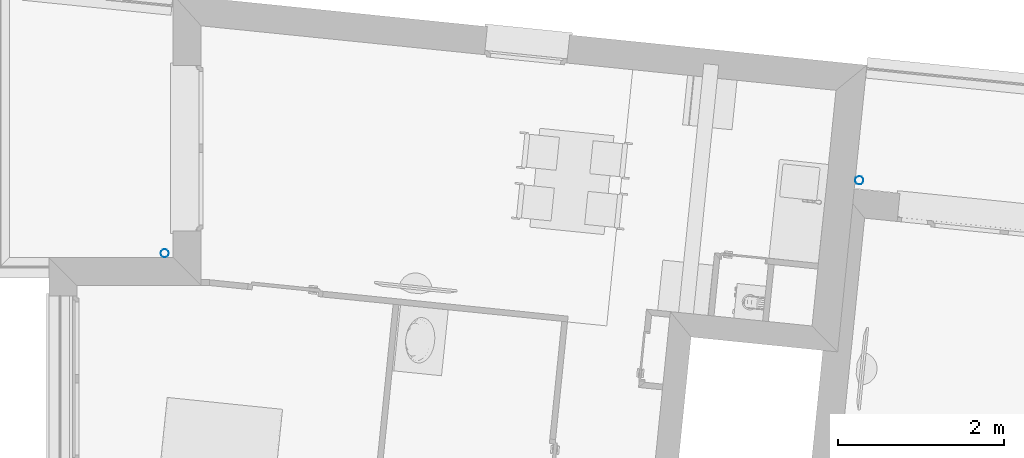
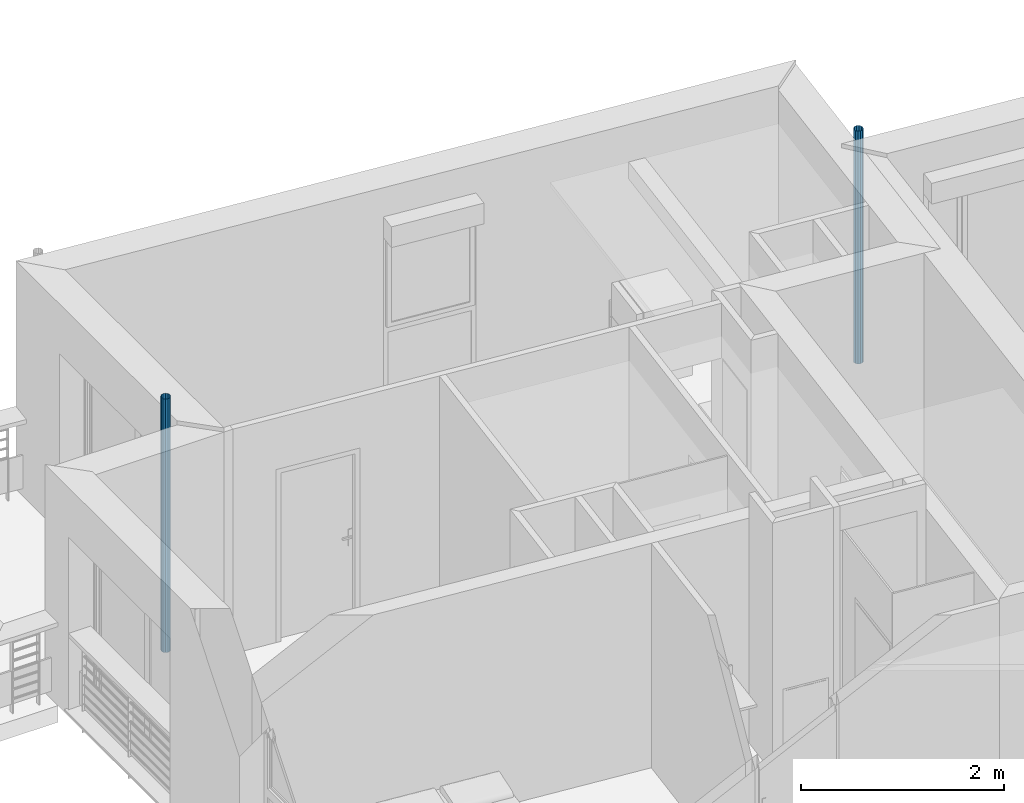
# One storey, part 82 of 164: 2 discrete accessories.
"""IFC2X3 building model written with IfcOpenShell, lengths in millimetres."""

from ifc_helpers import new_model, entity, si_unit, converted_unit, derived_unit, money_unit, direction, frame, origin_with_axes, place, context, subcontext, project, spatial, open_shell, surface_model, source, transform, mapped, type_object, element, save


model = new_model("IFC2X3")

# Units and contexts
model_context = context("Model", 3, precision=0.01, world=origin_with_axes(), true_north=direction((0.0, 1.0)))
body_context = subcontext(model_context, "Body", "Model", "MODEL_VIEW")
ifc_project = project(units=[si_unit("LENGTHUNIT", "METRE", prefix="MILLI"), si_unit("AREAUNIT", "SQUARE_METRE"), si_unit("VOLUMEUNIT", "CUBIC_METRE"), converted_unit("PLANEANGLEUNIT", "DEGREE", entity("IfcPlaneAngleMeasure", 0.0174532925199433), si_unit("PLANEANGLEUNIT", "RADIAN"), dimensions=[0, 0, 0, 0, 0, 0, 0]), money_unit("USD"), converted_unit("TIMEUNIT", "Year", entity("IfcTimeMeasure", 31557600.0), si_unit("TIMEUNIT", "SECOND"), dimensions=[0, 0, 1, 0, 0, 0, 0]), si_unit("MASSUNIT", "GRAM", prefix="KILO"), si_unit("THERMODYNAMICTEMPERATUREUNIT", "DEGREE_CELSIUS"), si_unit("LUMINOUSINTENSITYUNIT", "LUMEN"), si_unit("ENERGYUNIT", "JOULE", prefix="MEGA"), derived_unit("THERMALCONDUCTANCEUNIT", [(si_unit("POWERUNIT", "WATT"), 1), (si_unit("LENGTHUNIT", "METRE"), -1), (si_unit("THERMODYNAMICTEMPERATUREUNIT", "KELVIN"), -1)]), derived_unit("SPECIFICHEATCAPACITYUNIT", [(si_unit("ENERGYUNIT", "JOULE"), 1), (si_unit("MASSUNIT", "GRAM", prefix="KILO"), -1), (si_unit("THERMODYNAMICTEMPERATUREUNIT", "KELVIN"), -1)]), derived_unit("MASSDENSITYUNIT", [(si_unit("MASSUNIT", "GRAM", prefix="KILO"), 1), (si_unit("VOLUMEUNIT", "CUBIC_METRE"), -1)])], contexts=[model_context])

# Site, building, storey
site_placement = place(None, origin_with_axes())
site = spatial("IfcSite", under=ifc_project, at=site_placement, Name="Site", CompositionType="ELEMENT")
building_placement = place(site_placement, origin_with_axes())
building = spatial("IfcBuilding", under=site, at=building_placement, Name="Bâtiment", CompositionType="ELEMENT")
storey_placement = place(building_placement, frame((0.0, 0.0, 5750.0), z_axis=(0.0, 0.0, 1.0), x_axis=(1.0, 0.0, 0.0)))
storey = spatial("IfcBuildingStorey", under=building, at=storey_placement, Name="Etage1", CompositionType="ELEMENT", Elevation=5750.0)

# Discrete accessories
discrete_accessory_type = type_object("IfcDiscreteAccessoryType", Name="Tuyau descente 27")
shared_shape_1 = source(origin_with_axes(), body_context, "Body", "SurfaceModel", [
    surface_model("IfcShellBasedSurfaceModel", [(-50.0, 0.0, 3050.0), (-50.0, 0.0, 0.0), (-43.30127018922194, -25.0, 0.0), (-43.30127018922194, -25.0, 3050.0), (-43.30127018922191, 25.00000000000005, 3050.0), (-43.30127018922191, 25.00000000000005, 0.0), (-25.00000000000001, -43.30127018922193, 0.0), (-25.00000000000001, -43.30127018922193, 3050.0), (-24.99999999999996, 43.30127018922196, 3050.0), (-24.99999999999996, 43.30127018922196, 0.0), (0.0, -50.0, 0.0), (0.0, -50.0, 3050.0), (0.0, 50.0, 3050.0), (0.0, 50.0, 0.0), (24.99999999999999, -43.30127018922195, 0.0), (24.99999999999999, -43.30127018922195, 3050.0), (25.00000000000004, 43.30127018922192, 3050.0), (25.00000000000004, 43.30127018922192, 0.0), (43.30127018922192, -25.00000000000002, 0.0), (43.30127018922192, -25.00000000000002, 3050.0), (43.30127018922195, 24.99999999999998, 3050.0), (43.30127018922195, 24.99999999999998, 0.0), (50.0, 0.0, 0.0), (50.0, 0.0, 3050.0)], [open_shell([[[0, 1, 2, 3]], [[4, 5, 1, 0]], [[3, 2, 6, 7]], [[8, 9, 5, 4]], [[7, 6, 10, 11]], [[12, 13, 9, 8]], [[11, 10, 14, 15]], [[16, 17, 13, 12]], [[15, 14, 18, 19]], [[20, 21, 17, 16]], [[19, 18, 22, 23]], [[23, 22, 21, 20]]])]),
])
discrete_accessory_1_placement = place(storey_placement, frame((2218034.158908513, -607117.3879007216, 0.0), z_axis=(0.0, 0.0, 1.0), x_axis=(-1.0, 0.0, 0.0)))
element("IfcDiscreteAccessory", 1, at=discrete_accessory_1_placement, inside=storey, type_object=discrete_accessory_type, Name="Obj.-318", context=body_context, shape_type="MappedRepresentation", body=[
    mapped(shared_shape_1, transform((0.0, 0.0, 0.0))),
])
shared_shape_2 = source(origin_with_axes(), body_context, "Body", "SurfaceModel", [
    surface_model("IfcShellBasedSurfaceModel", [(-50.0, 0.0, 2800.0), (-50.0, 0.0, 0.0), (-43.30127018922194, -25.0, 0.0), (-43.30127018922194, -25.0, 2800.0), (-43.30127018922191, 25.00000000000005, 2800.0), (-43.30127018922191, 25.00000000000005, 0.0), (-25.00000000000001, -43.30127018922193, 0.0), (-25.00000000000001, -43.30127018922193, 2800.0), (-24.99999999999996, 43.30127018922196, 2800.0), (-24.99999999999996, 43.30127018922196, 0.0), (0.0, -50.0, 0.0), (0.0, -50.0, 2800.0), (0.0, 50.0, 2800.0), (0.0, 50.0, 0.0), (24.99999999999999, -43.30127018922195, 0.0), (24.99999999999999, -43.30127018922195, 2800.0), (25.00000000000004, 43.30127018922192, 2800.0), (25.00000000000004, 43.30127018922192, 0.0), (43.30127018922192, -25.00000000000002, 0.0), (43.30127018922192, -25.00000000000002, 2800.0), (43.30127018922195, 24.99999999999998, 2800.0), (43.30127018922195, 24.99999999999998, 0.0), (50.0, 0.0, 0.0), (50.0, 0.0, 2800.0)], [open_shell([[[0, 1, 2, 3]], [[4, 5, 1, 0]], [[3, 2, 6, 7]], [[8, 9, 5, 4]], [[7, 6, 10, 11]], [[12, 13, 9, 8]], [[11, 10, 14, 15]], [[16, 17, 13, 12]], [[15, 14, 18, 19]], [[20, 21, 17, 16]], [[19, 18, 22, 23]], [[23, 22, 21, 20]]])]),
])
discrete_accessory_2_placement = place(storey_placement, frame((2226421.612192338, -606237.1895906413, 0.0), z_axis=(0.0, 0.0, 1.0), x_axis=(-0.9948759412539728, 0.1011032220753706, 0.0)))
element("IfcDiscreteAccessory", 2, at=discrete_accessory_2_placement, inside=storey, type_object=discrete_accessory_type, Name="Obj.-318", context=body_context, shape_type="MappedRepresentation", body=[
    mapped(shared_shape_2, transform((0.0, 0.0, 0.0))),
])

save(model, "model.ifc")
